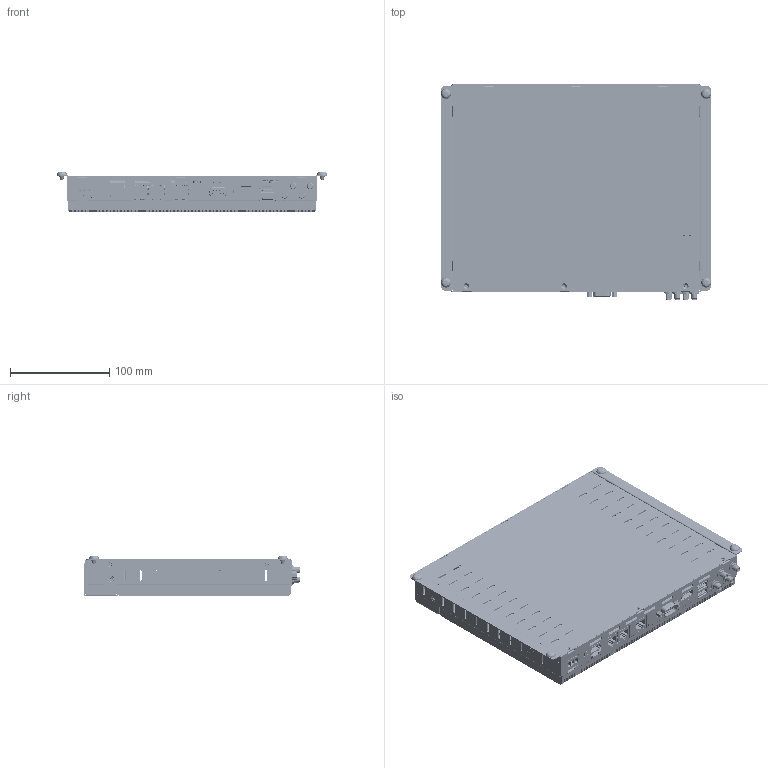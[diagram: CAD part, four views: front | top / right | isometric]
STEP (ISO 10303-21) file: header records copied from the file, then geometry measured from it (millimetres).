
FILE_DESCRIPTION((''),'2;1');
FILE_NAME('EC6A-100','2026-06-02T13:17:43',('gijyu181'),(''),'CREO PARAMETRIC BY PTC INC, 2018050','CREO PARAMETRIC BY PTC INC, 2018050','');
FILE_SCHEMA(('CONFIG_CONTROL_DESIGN','SHAPE_APPEARANCE_LAYERS_GROUPS'));
Products named in the file (1): EC6A-100
Bounding box: 272 x 217.54 x 40.9 mm (x, y, z)
Volume: 666062.1 mm3; surface area: 588015.6 mm2
Topology: 6 solids, 60 shells, 30988 faces, 91640 edges, 60647 vertices
Faces by surface type: plane 21615, cylinder 7320, extrusion 1455, cone 265, bspline 190, torus 95, sphere 48
Entity records: 1165376 total; most frequent: CARTESIAN_POINT 213747, ORIENTED_EDGE 182379, DIRECTION 162520, EDGE_CURVE 91586, VECTOR 73864, LINE 72409, VERTEX_POINT 60648, AXIS2_PLACEMENT_3D 44328
